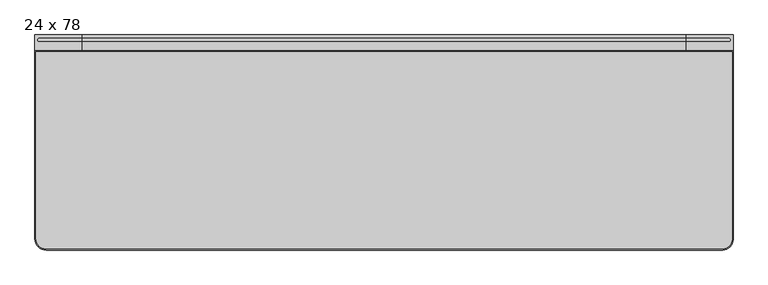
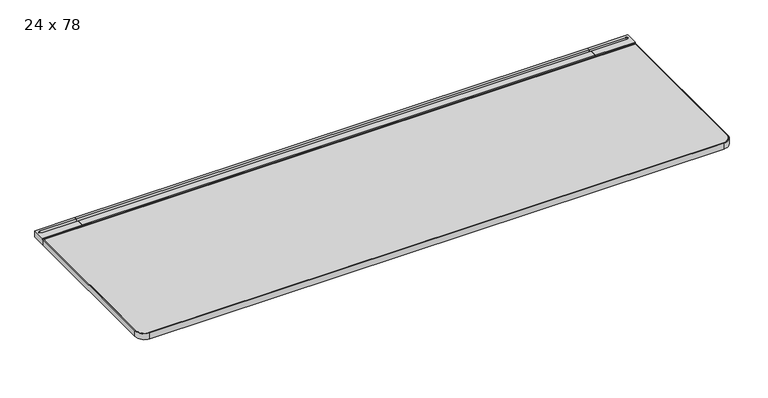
"""IFC4 building model written with IfcOpenShell, lengths in millimetres: furniture geometry, Steelcase - C Scape - Desking - Straight : 24 x 78."""

from ifc_helpers import new_model, si_unit, point, frame, frame_2d, origin, place, context, project, spatial, polyline, circle_curve, trimmed, segment, composite_curve, outline, extrude, faceted_brep, source, transform, mapped, element, save
from ifc_brep_helpers import plane_surface, cylinder_surface, revolved_surface, advanced_brep


def furniture_24_x_78_e408c419(model_context):
    return source(origin(), model_context, "Body", "SolidModel", [
        advanced_brep(
        [(1846.6562243, -45.3135132, 703.3768), (1846.6562243, -45.3135132, 722.4268341), (1846.6562243, -42.7750923, 722.4268341), (1846.6562243, -42.7750923, 725.932), (1846.6562243, -19.3290527, 725.932), (1846.6562243, -19.3290527, 713.486), (1846.6562243, -8.5111084, 713.486), (1846.6562243, -8.5111084, 725.932), (1846.6562243, 0.0, 725.932), (1846.6562243, 0.0, 705.1038636), (1846.6562243, -3.2278472, 705.1038636), (1846.6562243, -4.0331902, 703.3768), (1979.6760119, -45.3135132, 703.3768), (1979.6760119, -4.0331902, 703.3768), (1979.6760119, -3.2278472, 705.1038636), (1979.6760119, 0.0, 705.1038636), (1979.6760119, 0.0, 725.932), (1979.6760119, -42.7750923, 725.932), (1979.6760119, -42.7750923, 722.4268341), (1979.6760119, -45.3135132, 722.4268341), (1967.9139392, -8.5111084, 725.932), (1967.9139392, -19.3290527, 725.932), (1967.9139392, -19.3290527, 713.486), (1967.9139392, -8.5111084, 713.486)],
        [
            (0, 1),
            (1, 2),
            (2, 3),
            (3, 4),
            (4, 5),
            (5, 6),
            (6, 7),
            (7, 8),
            (8, 9),
            (9, 10),
            (10, 11),
            (11, 0),
            (12, 13),
            (13, 14),
            (14, 15),
            (15, 16),
            (16, 17),
            (17, 18),
            (18, 19),
            (19, 12),
            (11, 13),
            (12, 0),
            (10, 14),
            (9, 15),
            (8, 16),
            (7, 20),
            (20, 21, circle_curve(frame((1967.9139392, -13.9200806, 725.932), z_axis=(0.0, 0.0, -1.0), x_axis=(-1.0, 0.0, 0.0)), 5.4089722)),
            (21, 4),
            (3, 17),
            (2, 18),
            (1, 19),
            (5, 22),
            (22, 23, circle_curve(frame((1967.9139392, -13.9200806, 713.486), z_axis=(0.0, 0.0, 1.0), x_axis=(-1.0, 0.0, 0.0)), 5.4089722)),
            (23, 6),
            (23, 20),
            (22, 21),
        ],
        [
            plane_surface(frame((1846.6562243, -45.3135132, 703.3768), z_axis=(-1.0, 0.0, 0.0), x_axis=(0.0, 1.0, 0.0))),
            plane_surface(frame((1979.6760119, -45.3135132, 703.3768), z_axis=(1.0, 0.0, 0.0), x_axis=(0.0, -1.0, 0.0))),
            plane_surface(frame((1846.6562243, -45.3135132, 703.3768), z_axis=(0.0, 0.0, -1.0), x_axis=(1.0, 0.0, 0.0))),
            plane_surface(frame((1846.6562243, -4.0331902, 703.3768), z_axis=(0.0, 0.9063077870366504, -0.4226182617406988), x_axis=(1.0, 0.0, 0.0))),
            plane_surface(frame((1846.6562243, -3.2278472, 705.1038636), z_axis=(0.0, 0.0, -1.0), x_axis=(1.0, 0.0, 0.0))),
            plane_surface(frame((1846.6562243, 0.0, 705.1038636), z_axis=(0.0, 1.0, 0.0), x_axis=(1.0, 0.0, 0.0))),
            plane_surface(frame((1846.6562243, 0.0, 725.932), z_axis=(0.0, 0.0, 1.0), x_axis=(1.0, 0.0, 0.0))),
            plane_surface(frame((1846.6562243, -42.7750923, 725.932), z_axis=(0.0, -1.0, 0.0), x_axis=(1.0, 0.0, 0.0))),
            plane_surface(frame((1846.6562243, -42.7750923, 722.4268341), z_axis=(0.0, 0.0, 1.0), x_axis=(1.0, 0.0, 0.0))),
            plane_surface(frame((1846.6562243, -45.3135132, 722.4268341), z_axis=(0.0, -1.0, 0.0), x_axis=(1.0, 0.0, 0.0))),
            plane_surface(frame((1967.9139392, -8.5111084, 713.486), z_axis=(0.0, 0.0, 1.0), x_axis=(-1.0, 0.0, 0.0))),
            plane_surface(frame((1846.6562243, -8.5111084, 731.2180541), z_axis=(0.0, -1.0, 0.0), x_axis=(0.0, 0.0, -1.0))),
            revolved_surface(polyline([(1962.5049669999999, -13.9200806, 725.932), (1962.5049669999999, -13.9200806, 713.486)]), (1967.9139392, -13.9200806, 713.486), (0.0, 0.0, 1.0)),
            plane_surface(frame((1967.9139392, -19.3290527, 731.2180541), z_axis=(0.0, 1.0, 0.0), x_axis=(0.0, 0.0, -1.0))),
        ],
        [
            (0, [[1, 2, 3, 4, 5, 6, 7, 8, 9, 10, 11, 12]]),
            (1, [[13, 14, 15, 16, 17, 18, 19, 20]]),
            (2, [[21, -13, 22, -12]]),
            (3, [[23, -14, -21, -11]]),
            (4, [[24, -15, -23, -10]]),
            (5, [[25, -16, -24, -9]]),
            (6, [[-25, -8, 26, 27, 28, -4, 29, -17]]),
            (7, [[30, -18, -29, -3]]),
            (8, [[31, -19, -30, -2]]),
            (9, [[-22, -20, -31, -1]]),
            (10, [[-6, 32, 33, 34]]),
            (11, [[35, -26, -7, -34]]),
            (12, [[36, -27, -35, -33]]),
            (13, [[-5, -28, -36, -32]]),
        ],
    ),
        faceted_brep([(1960.6252487, -565.0752923, 700.7093833), (1960.6252487, -565.0752923, 703.3768), (1846.6562243, -565.0752923, 703.3768), (1846.6562243, -565.0752923, 679.3263935), (1862.2903818, -565.0752923, 679.3263935), (1864.910924, -565.0752923, 693.4200291), (1946.3501391, -565.0752923, 693.4200291), (1960.6252487, -4.0331902, 700.7093833), (1946.3501391, -4.0331902, 693.4200291), (1864.910924, -4.0331902, 693.4200291), (1853.0046772, -4.0331902, 629.3866), (1846.6562243, -4.0331902, 629.3866), (1846.6562243, -4.0331902, 703.3768), (1960.6252487, -4.0331902, 703.3768), (1860.1251068, -376.5599397, 667.6812472), (1853.0046772, -364.1172546, 629.3866), (1846.6562243, -364.1172546, 629.3866), (1846.6562243, -376.5599397, 667.6812472)], [[[0, 1, 2, 3, 4, 5, 6]], [[7, 8, 9, 10, 11, 12, 13]], [[6, 8, 7, 0]], [[5, 9, 8, 6]], [[9, 5, 4, 14, 15, 10]], [[10, 15, 16, 11]], [[11, 16, 17, 3, 2, 12]], [[1, 13, 12, 2]], [[0, 7, 13, 1]], [[14, 4, 3, 17]], [[17, 16, 15, 14]]]),
        extrude(outline(composite_curve([segment(polyline([(-293.5216187, 657.3775839), (-559.0022133, 680.1371551)]), True, "CONTINUOUS"), segment(trimmed(circle_curve(frame_2d((-558.7581271, 682.9843154)), 2.8576039), [point((-559.0022133, 680.1371551))], [point((-561.5383043, 682.3236226))], False, "CARTESIAN"), True, "CONTINUOUS"), segment(polyline([(-561.5383043, 682.3236226), (-566.0887542, 701.4717905), (-557.8334441, 701.4717905), (-557.8334441, 703.3768), (-442.6683806, 703.3768), (-442.6683806, 696.3917953), (-318.2108611, 696.3917953), (-318.2108611, 703.3768), (-293.5216187, 703.3768), (-293.5216187, 657.3775839)]), True, "CONTINUOUS")], self_intersect=False)), frame((954.024, 0.0, 0.0), z_axis=(1.0, 0.0, 0.0), x_axis=(0.0, 1.0, 0.0)), (0.0, 0.0, 1.0), 73.152),
        advanced_brep(
        [(134.6072876, -45.3135132, 703.3768), (134.6072876, -4.0331902, 703.3768), (134.6072876, -3.2278472, 705.1038636), (134.6072876, 0.0, 705.1038636), (134.6072876, 0.0, 725.932), (134.6072876, -8.5111084, 725.932), (134.6072876, -8.5111084, 713.486), (134.6072876, -19.3290527, 713.486), (134.6072876, -19.3290527, 725.932), (134.6072876, -42.7750923, 725.932), (134.6072876, -42.7750923, 722.4268341), (134.6072876, -45.3135132, 722.4268341), (1.5875, -45.3135132, 703.3768), (1.5875, -45.3135132, 722.4268341), (1.5875, -42.7750923, 722.4268341), (1.5875, -42.7750923, 725.932), (1.5875, 0.0, 725.932), (1.5875, 0.0, 705.1038636), (1.5875, -3.2278472, 705.1038636), (1.5875, -4.0331902, 703.3768), (13.3495728, -19.3290527, 725.932), (13.3495728, -8.5111084, 725.932), (13.3495728, -8.5111084, 713.486), (13.3495728, -19.3290527, 713.486)],
        [
            (0, 1),
            (1, 2),
            (2, 3),
            (3, 4),
            (4, 5),
            (5, 6),
            (6, 7),
            (7, 8),
            (8, 9),
            (9, 10),
            (10, 11),
            (11, 0),
            (12, 13),
            (13, 14),
            (14, 15),
            (15, 16),
            (16, 17),
            (17, 18),
            (18, 19),
            (19, 12),
            (0, 12),
            (19, 1),
            (18, 2),
            (17, 3),
            (16, 4),
            (15, 9),
            (8, 20),
            (20, 21, circle_curve(frame((13.3495728, -13.9200806, 725.932), z_axis=(0.0, 0.0, -1.0), x_axis=(1.0, 0.0, 0.0)), 5.4089722)),
            (21, 5),
            (14, 10),
            (13, 11),
            (6, 22),
            (22, 23, circle_curve(frame((13.3495728, -13.9200806, 713.486), z_axis=(0.0, 0.0, 1.0), x_axis=(1.0, 0.0, 0.0)), 5.4089722)),
            (23, 7),
            (21, 22),
            (20, 23),
        ],
        [
            plane_surface(frame((134.6072876, -45.3135132, 703.3768), z_axis=(1.0, 0.0, 0.0), x_axis=(0.0, 1.0, 0.0))),
            plane_surface(frame((1.5875, -45.3135132, 703.3768), z_axis=(-1.0, 0.0, 0.0), x_axis=(0.0, -1.0, 0.0))),
            plane_surface(frame((134.6072876, -45.3135132, 703.3768), z_axis=(0.0, 0.0, -1.0), x_axis=(-1.0, 0.0, 0.0))),
            plane_surface(frame((134.6072876, -4.0331902, 703.3768), z_axis=(0.0, 0.9063077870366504, -0.4226182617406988), x_axis=(-1.0, 0.0, 0.0))),
            plane_surface(frame((134.6072876, -3.2278472, 705.1038636), z_axis=(0.0, 0.0, -1.0), x_axis=(-1.0, 0.0, 0.0))),
            plane_surface(frame((134.6072876, 0.0, 705.1038636), z_axis=(0.0, 1.0, 0.0), x_axis=(-1.0, 0.0, 0.0))),
            plane_surface(frame((134.6072876, 0.0, 725.932), z_axis=(0.0, 0.0, 1.0), x_axis=(-1.0, 0.0, 0.0))),
            plane_surface(frame((134.6072876, -42.7750923, 725.932), z_axis=(0.0, -1.0, 0.0), x_axis=(-1.0, 0.0, 0.0))),
            plane_surface(frame((134.6072876, -42.7750923, 722.4268341), z_axis=(0.0, 0.0, 1.0), x_axis=(-1.0, 0.0, 0.0))),
            plane_surface(frame((134.6072876, -45.3135132, 722.4268341), z_axis=(0.0, -1.0, 0.0), x_axis=(-1.0, 0.0, 0.0))),
            plane_surface(frame((13.3495728, -8.5111084, 713.486), z_axis=(0.0, 0.0, 1.0), x_axis=(1.0, 0.0, 0.0))),
            plane_surface(frame((134.6072876, -8.5111084, 731.2180541), z_axis=(0.0, -1.0, 0.0), x_axis=(0.0, 0.0, -1.0))),
            revolved_surface(polyline([(18.758545, -13.9200806, 725.932), (18.758545, -13.9200806, 713.486)]), (13.3495728, -13.9200806, 713.486), (0.0, 0.0, 1.0)),
            plane_surface(frame((13.3495728, -19.3290527, 731.2180541), z_axis=(0.0, 1.0, 0.0), x_axis=(0.0, 0.0, -1.0))),
        ],
        [
            (0, [[1, 2, 3, 4, 5, 6, 7, 8, 9, 10, 11, 12]]),
            (1, [[13, 14, 15, 16, 17, 18, 19, 20]]),
            (2, [[-1, 21, -20, 22]]),
            (3, [[-2, -22, -19, 23]]),
            (4, [[-3, -23, -18, 24]]),
            (5, [[-4, -24, -17, 25]]),
            (6, [[-16, 26, -9, 27, 28, 29, -5, -25]]),
            (7, [[-10, -26, -15, 30]]),
            (8, [[-11, -30, -14, 31]]),
            (9, [[-12, -31, -13, -21]]),
            (10, [[32, 33, 34, -7]]),
            (11, [[-32, -6, -29, 35]]),
            (12, [[-33, -35, -28, 36]]),
            (13, [[-34, -36, -27, -8]]),
        ],
    ),
        faceted_brep([(20.6382632, -565.0752923, 700.7093833), (34.9133728, -565.0752923, 693.4200291), (116.3525879, -565.0752923, 693.4200291), (118.9731301, -565.0752923, 679.3263935), (134.6072876, -565.0752923, 679.3263935), (134.6072876, -565.0752923, 703.3768), (20.6382632, -565.0752923, 703.3768), (20.6382632, -4.0331902, 700.7093833), (20.6382632, -4.0331902, 703.3768), (134.6072876, -4.0331902, 703.3768), (134.6072876, -4.0331902, 629.3866), (128.2588347, -4.0331902, 629.3866), (116.3525879, -4.0331902, 693.4200291), (34.9133728, -4.0331902, 693.4200291), (128.2588347, -364.1172546, 629.3866), (121.1384051, -376.5599397, 667.6812472), (134.6072876, -364.1172546, 629.3866), (134.6072876, -376.5599397, 667.6812472)], [[[0, 1, 2, 3, 4, 5, 6]], [[7, 8, 9, 10, 11, 12, 13]], [[1, 0, 7, 13]], [[2, 1, 13, 12]], [[12, 11, 14, 15, 3, 2]], [[11, 10, 16, 14]], [[10, 9, 5, 4, 17, 16]], [[6, 5, 9, 8]], [[0, 6, 8, 7]], [[15, 17, 4, 3]], [[17, 15, 14, 16]]]),
        extrude(outline(polyline([(-8.5111084, 725.932), (0.0, 725.932), (0.0, 705.1038636), (-3.2278472, 705.1038636), (-4.0331902, 703.3768), (-45.3135132, 703.3768), (-45.3135132, 722.4268341), (-42.7750923, 722.4268341), (-42.7750923, 725.932), (-19.3290527, 725.932), (-19.3290527, 713.486), (-8.5111084, 713.486), (-8.5111084, 725.932)])), frame((134.6072876, 0.0, 0.0), z_axis=(1.0, 0.0, 0.0), x_axis=(0.0, 1.0, 0.0)), (0.0, 0.0, 1.0), 1712.0489367),
        extrude(outline(polyline([(134.6072876, -293.5216187), (134.6072876, -4.0331902), (1846.6562243, -4.0331902), (1846.6562243, -293.5216187), (134.6072876, -293.5216187)])), frame((0.0, 0.0, 629.3866), z_axis=(0.0, 0.0, 1.0), x_axis=(1.0, 0.0, 0.0)), (0.0, 0.0, 1.0), 73.9902),
        advanced_brep(
        [(4.6355, -48.3660689, 723.9), (4.6355, -577.85, 723.9), (33.3375, -606.5490234, 723.9), (1949.8737019, -606.5490234, 723.9), (1976.6273608, -579.7953645, 723.9), (1976.6273608, -48.3660689, 723.9), (4.6355, -48.3660689, 703.3768), (1976.6273608, -48.3660689, 703.3768), (1976.6273608, -579.7953645, 703.3768), (1949.8737019, -606.5490234, 703.3768), (33.3375, -606.5490234, 703.3768), (4.6384766, -577.85, 703.3768)],
        [
            (0, 1),
            (1, 2, circle_curve(frame((33.3375, -577.85, 723.9), z_axis=(0.0, 0.0, 1.0), x_axis=(1.0, 0.0, 0.0)), 28.6990234)),
            (2, 3),
            (3, 4, circle_curve(frame((1949.8737019, -579.7953645, 723.9), z_axis=(0.0, 0.0, 1.0), x_axis=(1.0, 0.0, 0.0)), 26.7536589)),
            (4, 5),
            (5, 0),
            (6, 7),
            (7, 8),
            (8, 9, circle_curve(frame((1949.8737019, -579.7953645, 703.3768), z_axis=(0.0, 0.0, -1.0), x_axis=(1.0, 0.0, 0.0)), 26.7536589)),
            (9, 10),
            (10, 11, circle_curve(frame((33.3375, -577.85, 703.3768), z_axis=(0.0, 0.0, -1.0), x_axis=(1.0, 0.0, 0.0)), 28.6990234)),
            (11, 6),
            (0, 6),
            (11, 1),
            (10, 2),
            (9, 3),
            (8, 4),
            (7, 5),
        ],
        [
            plane_surface(frame((4.6355, -48.3660689, 723.9), z_axis=(0.0, 0.0, 1.0), x_axis=(0.0, -1.0, 0.0))),
            plane_surface(frame((4.6355, -48.3660689, 703.3768), z_axis=(0.0, 0.0, -1.0), x_axis=(0.0, 1.0, 0.0))),
            plane_surface(frame((4.6355, -48.3660689, 723.9), z_axis=(-1.0, 0.0, 0.0), x_axis=(0.0, 0.0, -1.0))),
            cylinder_surface(frame((33.3375, -577.85, 703.3768), z_axis=(0.0, 0.0, 1.0), x_axis=(1.0, 0.0, 0.0)), 28.6990234),
            plane_surface(frame((33.3375, -606.5490234, 723.9), z_axis=(0.0, -1.0, 0.0), x_axis=(0.0, 0.0, -1.0))),
            cylinder_surface(frame((1949.8737019, -579.7953645, 703.3768), z_axis=(0.0, 0.0, 1.0), x_axis=(1.0, 0.0, 0.0)), 26.7536589),
            plane_surface(frame((1976.6273608, -579.7953645, 723.9), z_axis=(1.0, 0.0, 0.0), x_axis=(0.0, 0.0, -1.0))),
            plane_surface(frame((1976.6273608, -48.3660689, 723.9), z_axis=(0.0, 1.0, 0.0), x_axis=(0.0, 0.0, -1.0))),
        ],
        [
            (0, [[1, 2, 3, 4, 5, 6]]),
            (1, [[7, 8, 9, 10, 11, 12]]),
            (2, [[-1, 13, -12, 14]]),
            (3, [[-2, -14, -11, 15]]),
            (4, [[-3, -15, -10, 16]]),
            (5, [[-4, -16, -9, 17]]),
            (6, [[-5, -17, -8, 18]]),
            (7, [[-6, -18, -7, -13]]),
        ],
    ),
        extrude(outline(composite_curve([segment(trimmed(circle_curve(frame_2d((33.3375, -577.85)), 31.75), [point((33.3375, -609.6))], [point((1.5875, -577.85))], False, "CARTESIAN"), True, "CONTINUOUS"), segment(polyline([(1.5875, -577.85), (1.5875, -45.3150923), (1979.676, -45.3150923), (1979.676, -579.7250374)]), True, "CONTINUOUS"), segment(trimmed(circle_curve(frame_2d((1949.8010374, -579.7250374)), 29.8749626), [point((1979.676, -579.7250374))], [point((1949.8010374, -609.6))], False, "CARTESIAN"), True, "CONTINUOUS"), segment(polyline([(1949.8010374, -609.6), (33.3375, -609.6)]), True, "CONTINUOUS")], self_intersect=False), holes=[composite_curve([segment(polyline([(1976.6250234, -48.3660689), (4.6384766, -48.3660689), (4.6384766, -577.85)]), True, "CONTINUOUS"), segment(trimmed(circle_curve(frame_2d((33.3375, -577.85)), 28.6990234), [point((4.6384766, -577.85))], [point((33.3375, -606.5490234))], True, "CARTESIAN"), True, "CONTINUOUS"), segment(polyline([(33.3375, -606.5490234), (1949.8010374, -606.5490234)]), True, "CONTINUOUS"), segment(trimmed(circle_curve(frame_2d((1949.8010374, -579.7250374)), 26.8239861), [point((1949.8010374, -606.5490234))], [point((1976.6250234, -579.7250374))], True, "CARTESIAN"), True, "CONTINUOUS"), segment(polyline([(1976.6250234, -579.7250374), (1976.6250234, -48.3660689)]), True, "CONTINUOUS")], self_intersect=False)]), frame((0.0, 0.0, 703.3768), z_axis=(0.0, 0.0, 1.0), x_axis=(1.0, 0.0, 0.0)), (0.0, 0.0, 1.0), 20.5232),
    ])


if __name__ == "__main__":
    model = new_model("IFC4")
    model_context = context("Model", 3, world=origin())
    ifc_project = project(units=[si_unit("LENGTHUNIT", "METRE", prefix="MILLI")], contexts=[model_context])
    site = spatial("IfcSite", under=ifc_project)
    building = spatial("IfcBuilding", under=site)
    placement = place(None, origin())
    furniture_24_x_78_shape = furniture_24_x_78_e408c419(model_context)
    element("IfcFurniture", 1, ObjectType="Steelcase - C Scape - Desking - Straight : 24 x 78", at=placement, inside=building, context=model_context, shape_type="MappedRepresentation", body=[
        mapped(furniture_24_x_78_shape, transform((0.0, 0.0, 0.0), x_axis=(1.0, 0.0, 0.0), y_axis=(0.0, 1.0, 0.0), z_axis=(0.0, 0.0, 1.0))),
    ])
    save(model, "model.ifc")
